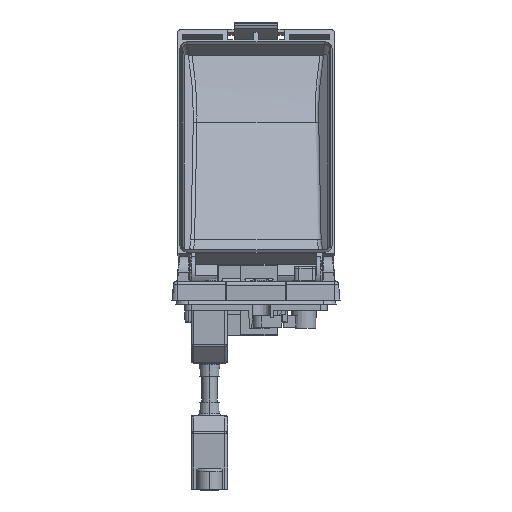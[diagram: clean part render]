
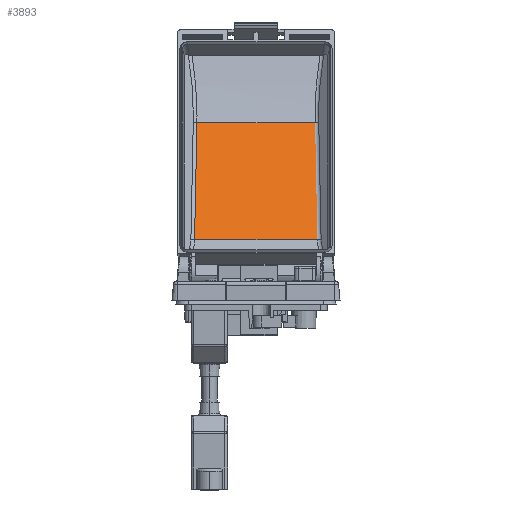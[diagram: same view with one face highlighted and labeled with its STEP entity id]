
A CAD part, left-side view. The second image highlights one B-rep face of the part: STEP entity #3893.
In plain terms, the highlighted planar face has unit normal (-0.865, 0, 0.502).
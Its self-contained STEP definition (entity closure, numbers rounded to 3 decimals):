
#1711 = EDGE_CURVE ( 'NONE', #84407, #49451, #22540, .T. ) ;
#3893 = ADVANCED_FACE ( 'NONE', ( #21178 ), #80666, .F. ) ;
#5367 = EDGE_CURVE ( 'NONE', #49477, #84407, #20029, .T. ) ;
#5658 = CARTESIAN_POINT ( 'NONE',  ( 80.377, 196.379, 31.179 ) ) ;
#11213 = ORIENTED_EDGE ( 'NONE', *, *, #1711, .T. ) ;
#13217 = LINE ( 'NONE', #24043, #72728 ) ;
#17377 = CARTESIAN_POINT ( 'NONE',  ( 71.612, 243.595, 16.093 ) ) ;
#17898 = EDGE_CURVE ( 'NONE', #58855, #49451, #13217, .T. ) ;
#18942 = CARTESIAN_POINT ( 'NONE',  ( 71.612, 189.435, 16.093 ) ) ;
#19742 = ORIENTED_EDGE ( 'NONE', *, *, #17898, .F. ) ;
#20029 = B_SPLINE_CURVE_WITH_KNOTS ( 'NONE', 3,
 ( #42181, #5658, #56842, #71570 ),
 .UNSPECIFIED., .F., .F.,
 ( 4, 4 ),
 ( 0., 1. ),
 .UNSPECIFIED. ) ;
#21178 = FACE_OUTER_BOUND ( 'NONE', #31406, .T. ) ;
#21259 = AXIS2_PLACEMENT_3D ( 'NONE', #88899, #51528, #22759 ) ;
#21364 = ORIENTED_EDGE ( 'NONE', *, *, #42244, .F. ) ;
#22540 = LINE ( 'NONE', #60224, #84274 ) ;
#22759 = DIRECTION ( 'NONE',  ( -0.502, 0., -0.865 ) ) ;
#22997 = CARTESIAN_POINT ( 'NONE',  ( 71.612, 196.074, 16.093 ) ) ;
#24043 = CARTESIAN_POINT ( 'NONE',  ( 71.612, 243.595, 16.093 ) ) ;
#26635 = DIRECTION ( 'NONE',  ( 0., 1., 0. ) ) ;
#28589 = LINE ( 'NONE', #18942, #72051 ) ;
#30233 = DIRECTION ( 'NONE',  ( 0., 1., 0. ) ) ;
#31406 = EDGE_LOOP ( 'NONE', ( #19742, #21364, #56778, #11213 ) ) ;
#42181 = CARTESIAN_POINT ( 'NONE',  ( 71.612, 196.074, 16.093 ) ) ;
#42244 = EDGE_CURVE ( 'NONE', #49477, #58855, #28589, .T. ) ;
#49451 = VERTEX_POINT ( 'NONE', #52382 ) ;
#49477 = VERTEX_POINT ( 'NONE', #22997 ) ;
#51528 = DIRECTION ( 'NONE',  ( 0.865, 0., -0.502 ) ) ;
#52382 = CARTESIAN_POINT ( 'NONE',  ( 97.905, 242.682, 61.35 ) ) ;
#56778 = ORIENTED_EDGE ( 'NONE', *, *, #5367, .T. ) ;
#56842 = CARTESIAN_POINT ( 'NONE',  ( 89.141, 196.683, 46.264 ) ) ;
#58855 = VERTEX_POINT ( 'NONE', #17377 ) ;
#60224 = CARTESIAN_POINT ( 'NONE',  ( 97.905, 189.435, 61.35 ) ) ;
#68569 = CARTESIAN_POINT ( 'NONE',  ( 97.905, 196.988, 61.35 ) ) ;
#71570 = CARTESIAN_POINT ( 'NONE',  ( 97.905, 196.988, 61.35 ) ) ;
#72051 = VECTOR ( 'NONE', #26635, 1000. ) ;
#72728 = VECTOR ( 'NONE', #76145, 1000. ) ;
#76145 = DIRECTION ( 'NONE',  ( 0.502, -0.017, 0.865 ) ) ;
#80666 = PLANE ( 'NONE',  #21259 ) ;
#84274 = VECTOR ( 'NONE', #30233, 1000. ) ;
#84407 = VERTEX_POINT ( 'NONE', #68569 ) ;
#88899 = CARTESIAN_POINT ( 'NONE',  ( 97.905, 189.435, 61.35 ) ) ;
